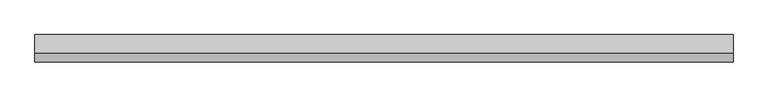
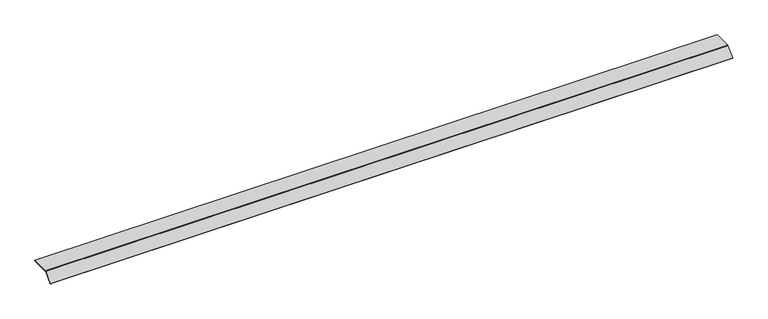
"""IFC4 building model written with IfcOpenShell, lengths in millimetres: proxy geometry, Electrical_Installation_Hager_Blank-Cover-800mm-Single-Sided-Height-70mm : Electrical_Installation_Hager_Blank-Cover-800mm-Single-Sided-Height-70mm."""

from ifc_helpers import new_model, si_unit, point, frame, frame_2d, origin, place, context, project, spatial, polyline, circle_curve, trimmed, segment, composite_curve, outline, extrude, source, transform, mapped, element, save


def electrical_fixtures_8a86bcad(model_context):
    return source(origin(), model_context, "Body", "SweptSolid", [
        extrude(outline(composite_curve([segment(polyline([(75.0, 40.5), (75.0, 37.5), (-74.8229541, 37.5)]), True, "CONTINUOUS"), segment(trimmed(circle_curve(frame_2d((-74.8229541, 36.0725733)), 1.4274267), [point((-74.8229541, 37.5))], [point((-75.8322972, 37.0819164))], True, "CARTESIAN"), True, "CONTINUOUS"), segment(polyline([(-75.8322972, 37.0819164), (-143.6627596, -30.7485461), (-145.78408, -28.6272257), (-77.8206472, 39.336207)]), True, "CONTINUOUS"), segment(trimmed(circle_curve(frame_2d((-75.0110025, 36.5265623)), 3.9734377), [point((-77.8206472, 39.336207))], [point((-75.0110025, 40.5))], False, "CARTESIAN"), True, "CONTINUOUS"), segment(polyline([(-75.0110025, 40.5), (75.0, 40.5)]), True, "CONTINUOUS")], self_intersect=False)), frame((0.0, 0.0, 0.0), z_axis=(1.0, 0.0, 0.0), x_axis=(0.0, 1.0, 0.0)), (0.0, 0.0, 1.0), 5611.6956759),
    ])


if __name__ == "__main__":
    model = new_model("IFC4")
    model_context = context("Model", 3, world=origin())
    ifc_project = project(units=[si_unit("LENGTHUNIT", "METRE", prefix="MILLI")], contexts=[model_context])
    site = spatial("IfcSite", under=ifc_project)
    building = spatial("IfcBuilding", under=site)
    placement = place(None, origin())
    electrical_fixtures_shape = electrical_fixtures_8a86bcad(model_context)
    element("IfcBuildingElementProxy", 1, Name="Electrical_Installation_Hager_Blank-Cover-800mm-Single-Sided-Height-70mm : Electrical_Installation_Hager_Blank-Cover-800mm-Single-Sided-Height-70mm", ObjectType="Electrical_Installation_Hager_Blank-Cover-800mm-Single-Sided-Height-70mm : Electrical_Installation_Hager_Blank-Cover-800mm-Single-Sided-Height-70mm", at=placement, inside=building, context=model_context, shape_type="MappedRepresentation", body=[
        mapped(electrical_fixtures_shape, transform((0.0, 0.0, 0.0), x_axis=(1.0, 0.0, 0.0), y_axis=(0.0, 1.0, 0.0), z_axis=(0.0, 0.0, 1.0))),
    ])
    save(model, "model.ifc")
